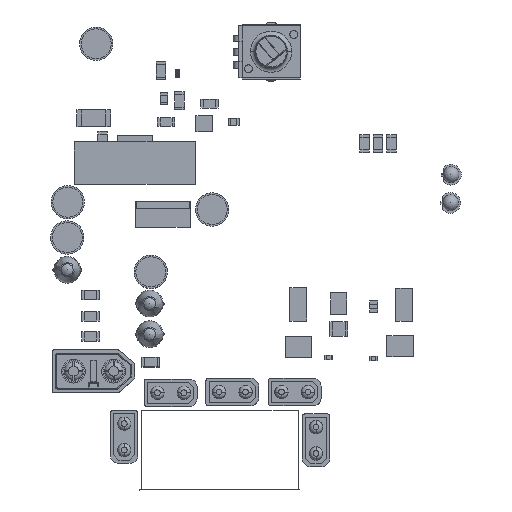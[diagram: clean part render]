
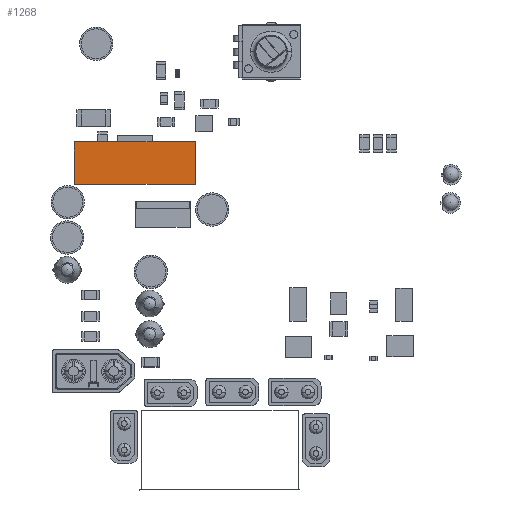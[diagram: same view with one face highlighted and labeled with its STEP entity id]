
A CAD part, top view. The second image highlights one B-rep face of the part: STEP entity #1268.
In plain terms, the highlighted planar face has unit normal (0, 0, 1).
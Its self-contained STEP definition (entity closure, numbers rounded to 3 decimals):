
#954 = VERTEX_POINT('',#955);
#955 = CARTESIAN_POINT('',(-11.45,-4.,2.03));
#962 = PLANE('',#963);
#963 = AXIS2_PLACEMENT_3D('',#964,#965,#966);
#964 = CARTESIAN_POINT('',(-11.45,-4.,0.));
#965 = DIRECTION('',(-1.,0.,0.));
#966 = DIRECTION('',(0.,1.,0.));
#974 = PLANE('',#975);
#975 = AXIS2_PLACEMENT_3D('',#976,#977,#978);
#976 = CARTESIAN_POINT('',(11.45,-4.,0.));
#977 = DIRECTION('',(0.,-1.,0.));
#978 = DIRECTION('',(-1.,0.,0.));
#986 = EDGE_CURVE('',#954,#987,#989,.T.);
#987 = VERTEX_POINT('',#988);
#988 = CARTESIAN_POINT('',(-11.45,4.,2.03));
#989 = SURFACE_CURVE('',#990,(#994,#1001),.PCURVE_S1.);
#990 = LINE('',#991,#992);
#991 = CARTESIAN_POINT('',(-11.45,-4.,2.03));
#992 = VECTOR('',#993,1.);
#993 = DIRECTION('',(0.,1.,0.));
#994 = PCURVE('',#962,#995);
#995 = DEFINITIONAL_REPRESENTATION('',(#996),#1000);
#996 = LINE('',#997,#998);
#997 = CARTESIAN_POINT('',(0.,-2.03));
#998 = VECTOR('',#999,1.);
#999 = DIRECTION('',(1.,0.));
#1000 = ( GEOMETRIC_REPRESENTATION_CONTEXT(2) 
PARAMETRIC_REPRESENTATION_CONTEXT() REPRESENTATION_CONTEXT('2D SPACE',''
  ) );
#1001 = PCURVE('',#1002,#1007);
#1002 = PLANE('',#1003);
#1003 = AXIS2_PLACEMENT_3D('',#1004,#1005,#1006);
#1004 = CARTESIAN_POINT('',(-11.45,-4.,2.03));
#1005 = DIRECTION('',(0.,0.,1.));
#1006 = DIRECTION('',(1.,0.,0.));
#1007 = DEFINITIONAL_REPRESENTATION('',(#1008),#1012);
#1008 = LINE('',#1009,#1010);
#1009 = CARTESIAN_POINT('',(0.,0.));
#1010 = VECTOR('',#1011,1.);
#1011 = DIRECTION('',(0.,1.));
#1012 = ( GEOMETRIC_REPRESENTATION_CONTEXT(2) 
PARAMETRIC_REPRESENTATION_CONTEXT() REPRESENTATION_CONTEXT('2D SPACE',''
  ) );
#1030 = PLANE('',#1031);
#1031 = AXIS2_PLACEMENT_3D('',#1032,#1033,#1034);
#1032 = CARTESIAN_POINT('',(-11.45,4.,0.));
#1033 = DIRECTION('',(0.,1.,0.));
#1034 = DIRECTION('',(1.,0.,0.));
#1072 = EDGE_CURVE('',#987,#1073,#1075,.T.);
#1073 = VERTEX_POINT('',#1074);
#1074 = CARTESIAN_POINT('',(11.45,4.,2.03));
#1075 = SURFACE_CURVE('',#1076,(#1080,#1087),.PCURVE_S1.);
#1076 = LINE('',#1077,#1078);
#1077 = CARTESIAN_POINT('',(-11.45,4.,2.03));
#1078 = VECTOR('',#1079,1.);
#1079 = DIRECTION('',(1.,0.,0.));
#1080 = PCURVE('',#1030,#1081);
#1081 = DEFINITIONAL_REPRESENTATION('',(#1082),#1086);
#1082 = LINE('',#1083,#1084);
#1083 = CARTESIAN_POINT('',(0.,-2.03));
#1084 = VECTOR('',#1085,1.);
#1085 = DIRECTION('',(1.,0.));
#1086 = ( GEOMETRIC_REPRESENTATION_CONTEXT(2) 
PARAMETRIC_REPRESENTATION_CONTEXT() REPRESENTATION_CONTEXT('2D SPACE',''
  ) );
#1087 = PCURVE('',#1002,#1088);
#1088 = DEFINITIONAL_REPRESENTATION('',(#1089),#1093);
#1089 = LINE('',#1090,#1091);
#1090 = CARTESIAN_POINT('',(0.,8.));
#1091 = VECTOR('',#1092,1.);
#1092 = DIRECTION('',(1.,0.));
#1093 = ( GEOMETRIC_REPRESENTATION_CONTEXT(2) 
PARAMETRIC_REPRESENTATION_CONTEXT() REPRESENTATION_CONTEXT('2D SPACE',''
  ) );
#1111 = PLANE('',#1112);
#1112 = AXIS2_PLACEMENT_3D('',#1113,#1114,#1115);
#1113 = CARTESIAN_POINT('',(11.45,4.,0.));
#1114 = DIRECTION('',(1.,0.,0.));
#1115 = DIRECTION('',(0.,-1.,0.));
#1148 = EDGE_CURVE('',#1073,#1149,#1151,.T.);
#1149 = VERTEX_POINT('',#1150);
#1150 = CARTESIAN_POINT('',(11.45,-4.,2.03));
#1151 = SURFACE_CURVE('',#1152,(#1156,#1163),.PCURVE_S1.);
#1152 = LINE('',#1153,#1154);
#1153 = CARTESIAN_POINT('',(11.45,4.,2.03));
#1154 = VECTOR('',#1155,1.);
#1155 = DIRECTION('',(0.,-1.,0.));
#1156 = PCURVE('',#1111,#1157);
#1157 = DEFINITIONAL_REPRESENTATION('',(#1158),#1162);
#1158 = LINE('',#1159,#1160);
#1159 = CARTESIAN_POINT('',(0.,-2.03));
#1160 = VECTOR('',#1161,1.);
#1161 = DIRECTION('',(1.,0.));
#1162 = ( GEOMETRIC_REPRESENTATION_CONTEXT(2) 
PARAMETRIC_REPRESENTATION_CONTEXT() REPRESENTATION_CONTEXT('2D SPACE',''
  ) );
#1163 = PCURVE('',#1002,#1164);
#1164 = DEFINITIONAL_REPRESENTATION('',(#1165),#1169);
#1165 = LINE('',#1166,#1167);
#1166 = CARTESIAN_POINT('',(22.9,8.));
#1167 = VECTOR('',#1168,1.);
#1168 = DIRECTION('',(0.,-1.));
#1169 = ( GEOMETRIC_REPRESENTATION_CONTEXT(2) 
PARAMETRIC_REPRESENTATION_CONTEXT() REPRESENTATION_CONTEXT('2D SPACE',''
  ) );
#1219 = EDGE_CURVE('',#1149,#954,#1220,.T.);
#1220 = SURFACE_CURVE('',#1221,(#1225,#1232),.PCURVE_S1.);
#1221 = LINE('',#1222,#1223);
#1222 = CARTESIAN_POINT('',(11.45,-4.,2.03));
#1223 = VECTOR('',#1224,1.);
#1224 = DIRECTION('',(-1.,0.,0.));
#1225 = PCURVE('',#974,#1226);
#1226 = DEFINITIONAL_REPRESENTATION('',(#1227),#1231);
#1227 = LINE('',#1228,#1229);
#1228 = CARTESIAN_POINT('',(0.,-2.03));
#1229 = VECTOR('',#1230,1.);
#1230 = DIRECTION('',(1.,0.));
#1231 = ( GEOMETRIC_REPRESENTATION_CONTEXT(2) 
PARAMETRIC_REPRESENTATION_CONTEXT() REPRESENTATION_CONTEXT('2D SPACE',''
  ) );
#1232 = PCURVE('',#1002,#1233);
#1233 = DEFINITIONAL_REPRESENTATION('',(#1234),#1238);
#1234 = LINE('',#1235,#1236);
#1235 = CARTESIAN_POINT('',(22.9,0.));
#1236 = VECTOR('',#1237,1.);
#1237 = DIRECTION('',(-1.,0.));
#1238 = ( GEOMETRIC_REPRESENTATION_CONTEXT(2) 
PARAMETRIC_REPRESENTATION_CONTEXT() REPRESENTATION_CONTEXT('2D SPACE',''
  ) );
#1268 = ADVANCED_FACE('',(#1269),#1002,.T.);
#1269 = FACE_BOUND('',#1270,.F.);
#1270 = EDGE_LOOP('',(#1271,#1272,#1273,#1274));
#1271 = ORIENTED_EDGE('',*,*,#986,.T.);
#1272 = ORIENTED_EDGE('',*,*,#1072,.T.);
#1273 = ORIENTED_EDGE('',*,*,#1148,.T.);
#1274 = ORIENTED_EDGE('',*,*,#1219,.T.);
